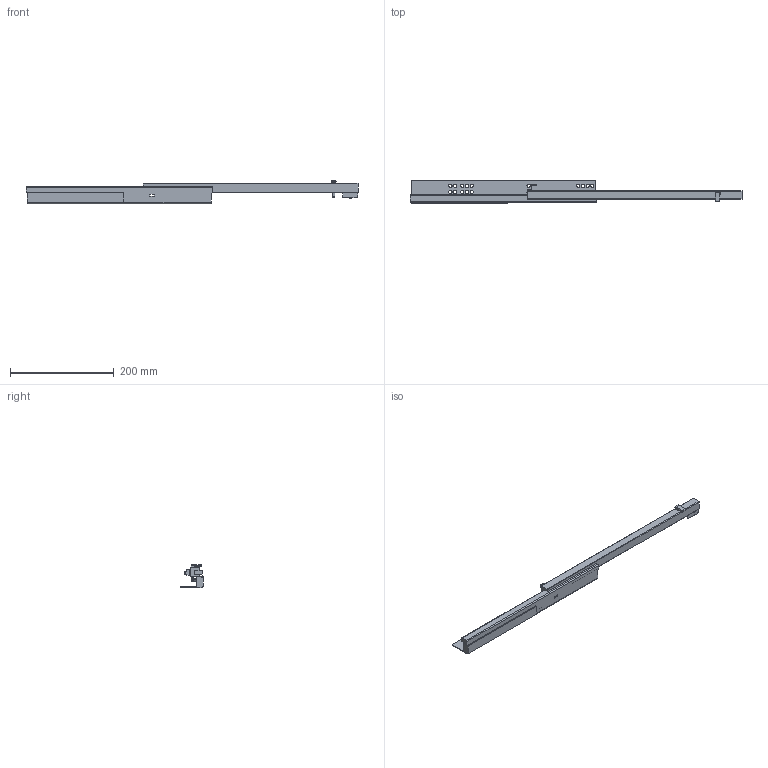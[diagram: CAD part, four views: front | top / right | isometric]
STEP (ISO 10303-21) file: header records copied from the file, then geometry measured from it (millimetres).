
FILE_DESCRIPTION (( 'STEP AP203' ), '1' );
FILE_NAME ('GG10550H-R-DTC3D-open.STEP', '2021-07-02T01:09:58', ( 'df' ), ( 'Microsoft' ), 'SwSTEP 2.0', 'SolidWorks 2018', '' );
FILE_SCHEMA (( 'CONFIG_CONTROL_DESIGN' ));
Length unit declared in the file: millimetre
Products named in the file (1): GG10550H-R-DTC3D-open
Bounding box: 641 x 44.1 x 44.73 mm (x, y, z)
Volume: 233664.8 mm3; surface area: 88456.8 mm2
Topology: 1 solids, 1 shells, 176 faces, 491 edges, 319 vertices
Faces by surface type: cylinder 88, plane 80, bspline 4, sphere 2, cone 2
Entity records: 5893 total; most frequent: CARTESIAN_POINT 1162, ORIENTED_EDGE 978, DIRECTION 971, EDGE_CURVE 489, AXIS2_PLACEMENT_3D 339, VERTEX_POINT 319, VECTOR 293, LINE 293
